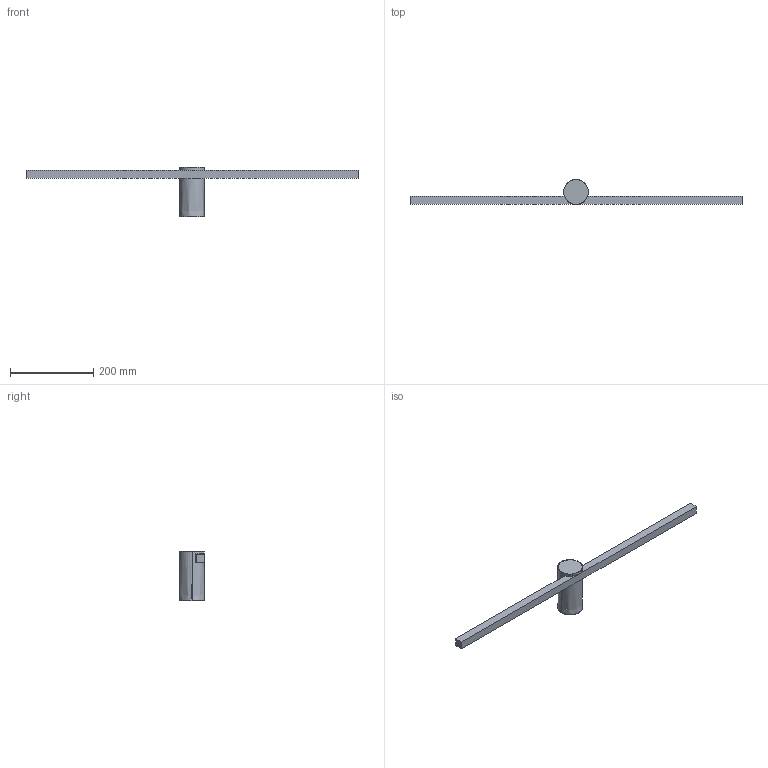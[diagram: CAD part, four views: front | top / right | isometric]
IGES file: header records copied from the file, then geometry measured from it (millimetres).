
Start section: SolidWorks IGES file using analytic representation for surfaces
Global section: file name: F:\燠隴矨\3D\2026-3\Lumen Trace Rechargeable Wall Lamp-L80cm.IGS,15; native system: HSolidWorks 2022; preprocessor: SolidWorks 2022; author: MyPC; date: 260309.153548; units: millimetre
Bounding box: 800 x 60 x 120 mm (x, y, z)
Surface area: 117251.3 mm2 (no closed solid volume)
Topology: 0 solids, 0 shells, 29 faces, 616 edges, 616 vertices
Faces by surface type: bspline 19, revolution 10
